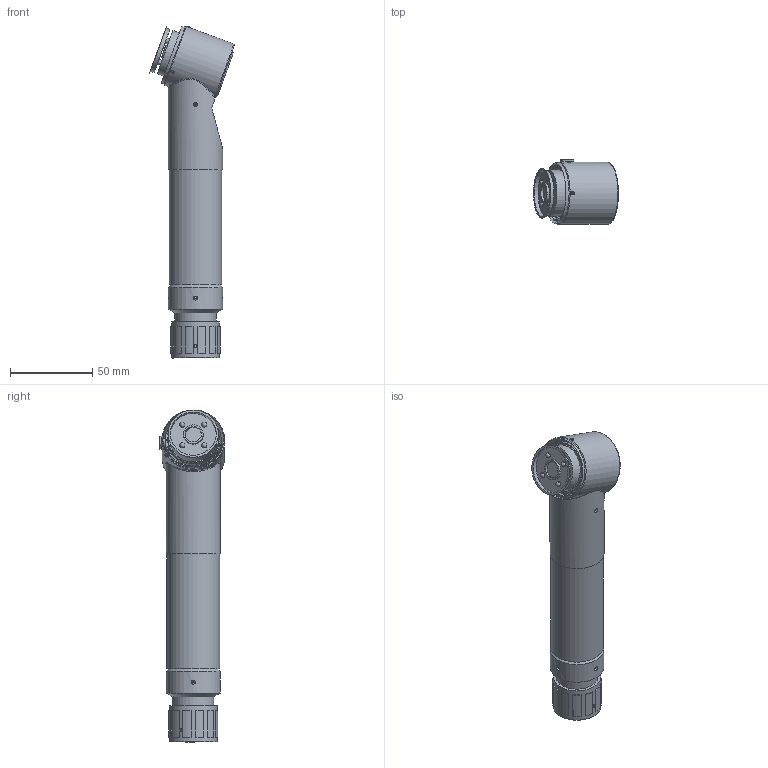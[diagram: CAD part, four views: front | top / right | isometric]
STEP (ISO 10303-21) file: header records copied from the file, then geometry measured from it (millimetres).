
FILE_DESCRIPTION(/* description */ (''),/* implementation_level */ '2;1');
FILE_NAME(/* name */ '\\SERVEUR-09\Entreprise\Bureau-Technique\Produits Web\microscopes\optiques\MA 117SZ-2.stp',/* time_stamp */ '2019-02-18T13:17:31+01:00',/* author */ ('ms'),/* organization */ ('Marcel Aubert'),/* preprocessor_version */ 'ST-DEVELOPER v17.2',/* originating_system */ 'Autodesk Inventor 2019',/* authorisation */ '');
FILE_SCHEMA (('CONFIG_CONTROL_DESIGN'));
Length unit declared in the file: millimetre
Products named in the file (1): Pièce1
Bounding box: 51.69 x 39.55 x 202.17 mm (x, y, z)
Volume: 97398.5 mm3; surface area: 49878.3 mm2
Topology: 5 solids, 14 shells, 720 faces, 1957 edges, 1333 vertices
Faces by surface type: plane 406, cylinder 232, cone 61, torus 9, sphere 7, bspline 5
Full cylindrical faces by diameter (mm): 0.6 x20, 0.8 x16, 1.567 x3, 1.75 x1, 2.013 x6, 2.3 x1, 2.459 x12, 2.5 x1, 3 x8, 3.2 x4, 4.7 x1, 4.9 x1, 5 x1, 6.4 x1, 8 x1, 10 x3, 11 x2, 11.5 x1, 12 x1, 12.8 x1, 13 x4, 14 x4, 14.5 x1, 15 x2, 15.3 x1, 16 x1, 16.46 x1, 16.5 x1, 17 x2, 18 x4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
Entity records: 25987 total; most frequent: CARTESIAN_POINT 6100, DIRECTION 4070, ORIENTED_EDGE 3940, EDGE_CURVE 1970, AXIS2_PLACEMENT_3D 1608, VERTEX_POINT 1350, EDGE_LOOP 893, LINE 854
